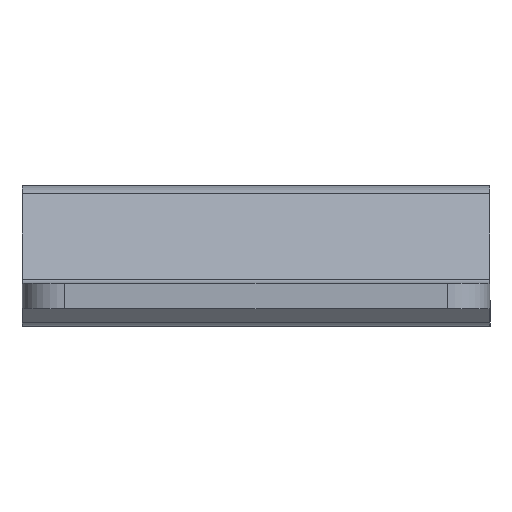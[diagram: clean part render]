
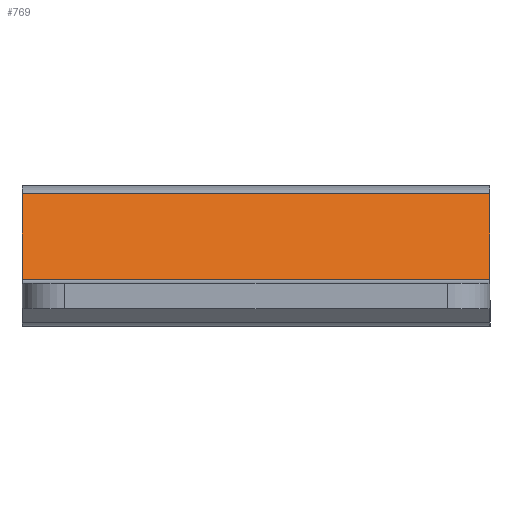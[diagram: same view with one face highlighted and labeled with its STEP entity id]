
A CAD part, left-side view. The second image highlights one B-rep face of the part: STEP entity #769.
In plain terms, the highlighted planar face has unit normal (-0.53, 0, 0.848).
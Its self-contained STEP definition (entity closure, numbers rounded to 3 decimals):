
#64=FACE_OUTER_BOUND('',#113,.T.);
#113=EDGE_LOOP('',(#587,#588,#589,#590));
#178=LINE('',#1239,#249);
#180=LINE('',#1244,#251);
#185=LINE('',#1254,#256);
#186=LINE('',#1255,#257);
#249=VECTOR('',#1000,10.);
#251=VECTOR('',#1006,10.);
#256=VECTOR('',#1015,10.);
#257=VECTOR('',#1016,10.);
#348=VERTEX_POINT('',#1227);
#350=VERTEX_POINT('',#1233);
#352=VERTEX_POINT('',#1243);
#355=VERTEX_POINT('',#1253);
#432=EDGE_CURVE('',#350,#348,#178,.T.);
#434=EDGE_CURVE('',#350,#352,#180,.T.);
#439=EDGE_CURVE('',#355,#348,#185,.T.);
#440=EDGE_CURVE('',#355,#352,#186,.T.);
#587=ORIENTED_EDGE('',*,*,#432,.T.);
#588=ORIENTED_EDGE('',*,*,#439,.F.);
#589=ORIENTED_EDGE('',*,*,#440,.T.);
#590=ORIENTED_EDGE('',*,*,#434,.F.);
#733=PLANE('',#853);
#769=ADVANCED_FACE('',(#64),#733,.T.);
#853=AXIS2_PLACEMENT_3D('',#1252,#1013,#1014);
#1000=DIRECTION('',(0.,1.,0.));
#1006=DIRECTION('',(-0.848,0.,-0.53));
#1013=DIRECTION('center_axis',(-0.53,0.,
0.848));
#1014=DIRECTION('ref_axis',(0.848,0.,0.53));
#1015=DIRECTION('',(0.848,0.,0.53));
#1016=DIRECTION('',(0.,-1.,0.));
#1227=CARTESIAN_POINT('',(49.703,55.,13.524));
#1233=CARTESIAN_POINT('',(49.703,0.,13.524));
#1239=CARTESIAN_POINT('',(49.703,13.75,13.524));
#1243=CARTESIAN_POINT('',(33.59,0.,3.456));
#1244=CARTESIAN_POINT('',(4.406,0.,-14.78));
#1252=CARTESIAN_POINT('Origin',(74.37,27.5,28.938));
#1253=CARTESIAN_POINT('',(33.59,55.,3.456));
#1254=CARTESIAN_POINT('',(144.334,55.,72.657));
#1255=CARTESIAN_POINT('',(33.59,13.75,3.456));
